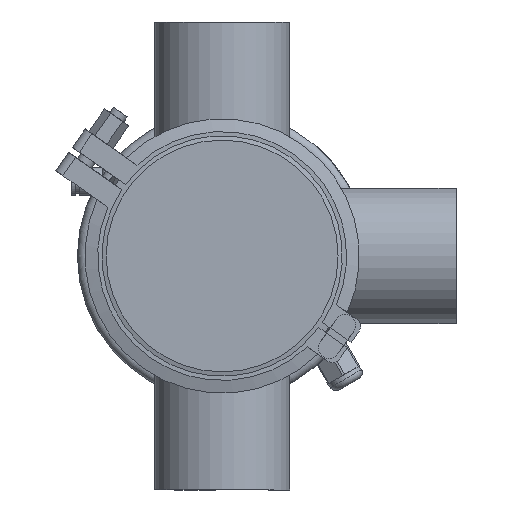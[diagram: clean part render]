
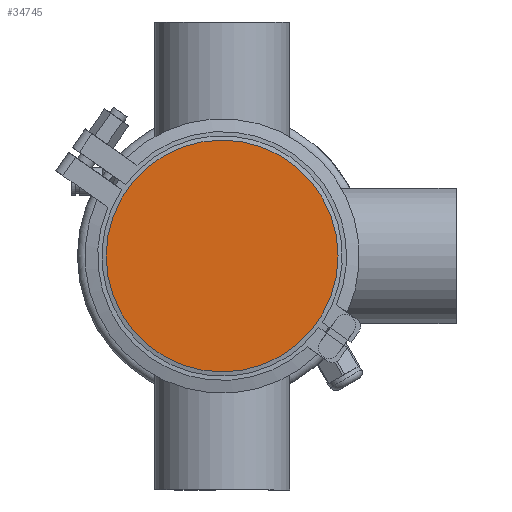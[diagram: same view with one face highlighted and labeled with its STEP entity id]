
A CAD part, front view. The second image highlights one B-rep face of the part: STEP entity #34745.
In plain terms, the highlighted planar face has unit normal (0, -1, 0).
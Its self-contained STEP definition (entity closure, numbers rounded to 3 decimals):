
#2666 = DIRECTION ( 'NONE',  ( 0., 0., 1. ) ) ;
#3719 = DIRECTION ( 'NONE',  ( 0., 0., -1. ) ) ;
#6858 = EDGE_CURVE ( 'NONE', #11776, #11776, #10280, .T. ) ;
#10280 = CIRCLE ( 'NONE', #24151, 54.5 ) ;
#11776 = VERTEX_POINT ( 'NONE', #30703 ) ;
#13153 = AXIS2_PLACEMENT_3D ( 'NONE', #56401, #14572, #3719 ) ;
#14572 = DIRECTION ( 'NONE',  ( 0., -1., 0. ) ) ;
#21097 = ORIENTED_EDGE ( 'NONE', *, *, #6858, .F. ) ;
#24151 = AXIS2_PLACEMENT_3D ( 'NONE', #54766, #30906, #2666 ) ;
#30703 = CARTESIAN_POINT ( 'NONE',  ( 0., 0., 54.5 ) ) ;
#30906 = DIRECTION ( 'NONE',  ( 0., 1., 0. ) ) ;
#32595 = FACE_OUTER_BOUND ( 'NONE', #58389, .T. ) ;
#34745 = ADVANCED_FACE ( 'NONE', ( #32595 ), #60799, .T. ) ;
#54766 = CARTESIAN_POINT ( 'NONE',  ( 0., 0., 0. ) ) ;
#56401 = CARTESIAN_POINT ( 'NONE',  ( -54.5, 0., 0. ) ) ;
#58389 = EDGE_LOOP ( 'NONE', ( #21097 ) ) ;
#60799 = PLANE ( 'NONE',  #13153 ) ;
